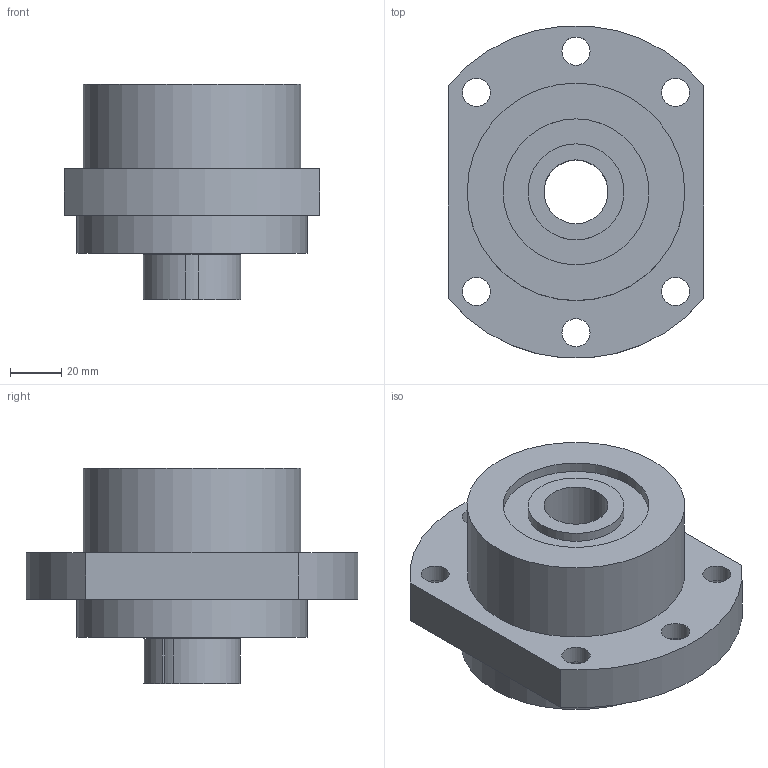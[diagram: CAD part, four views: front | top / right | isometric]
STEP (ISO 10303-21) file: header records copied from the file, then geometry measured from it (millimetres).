
FILE_DESCRIPTION(/* description */ (''),/* implementation_level */ '2;1');
FILE_NAME(/* name */ 'C:\Users\tenki620635\Desktop\官網\圖面\軸承座\3D\setp檔\WBK25 DF.stp',/* time_stamp */ '2020-12-21T10:01:50+08:00',/* author */ ('tenki620635'),/* organization */ (''),/* preprocessor_version */ 'ST-DEVELOPER v15.2',/* originating_system */ 'Autodesk Inventor 2014',/* authorisation */ '');
FILE_SCHEMA (('AUTOMOTIVE_DESIGN { 1 0 10303 214 3 1 1 }'));
Length unit declared in the file: millimetre
Products named in the file (1): WBK25 DF-Atype
Bounding box: 100 x 129.59 x 84 mm (x, y, z)
Volume: 437879.8 mm3; surface area: 58031.3 mm2
Topology: 1 solids, 1 shells, 52 faces, 108 edges, 72 vertices
Faces by surface type: cylinder 28, plane 24
Full cylindrical faces by diameter (mm): 11 x6, 17.5 x6, 25 x1, 33 x1, 37.5 x2, 57 x2, 85 x1, 90 x1
Entity records: 1357 total; most frequent: DIRECTION 250, CARTESIAN_POINT 213, ORIENTED_EDGE 176, AXIS2_PLACEMENT_3D 109, EDGE_LOOP 100, EDGE_CURVE 88, VERTEX_POINT 72, FACE_BOUND 56
